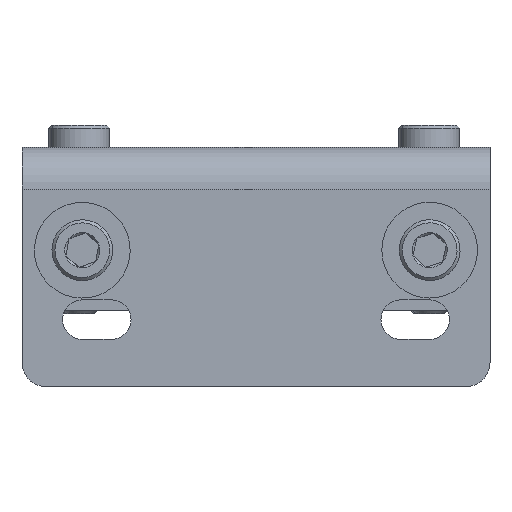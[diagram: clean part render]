
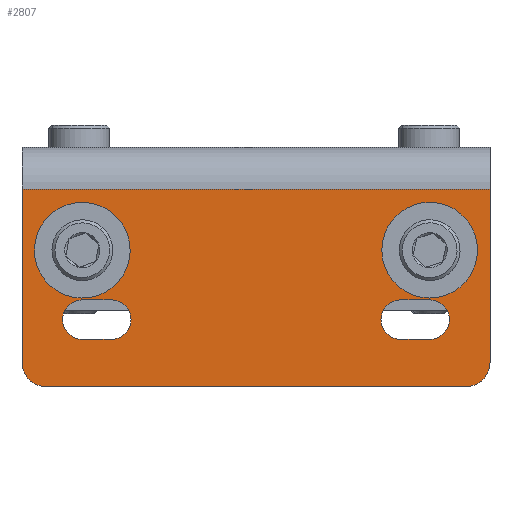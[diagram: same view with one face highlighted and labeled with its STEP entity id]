
A CAD part, front view. The second image highlights one B-rep face of the part: STEP entity #2807.
In plain terms, the highlighted planar face has unit normal (0, -1, 0).
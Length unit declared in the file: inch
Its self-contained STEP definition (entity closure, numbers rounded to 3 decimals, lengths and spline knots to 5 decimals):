
#1863=CARTESIAN_POINT('',(1.35827,-0.1345,1.0466));
#1864=DIRECTION('',(0.,-1.,0.));
#1865=DIRECTION('',(1.,0.,0.));
#1866=AXIS2_PLACEMENT_3D('',#1863,#1864,#1865);
#1868=DIRECTION('',(0.,0.,-1.));
#1869=VECTOR('',#1868,1.12313);
#1870=CARTESIAN_POINT('',(-1.51575,-0.1345,1.0466));
#1871=LINE('',#1870,#1869);
#1872=CARTESIAN_POINT('',(-1.35827,-0.1345,1.0466));
#1873=DIRECTION('',(0.,-1.,0.));
#1874=DIRECTION('',(0.,0.,1.));
#1875=AXIS2_PLACEMENT_3D('',#1872,#1873,#1874);
#1877=CARTESIAN_POINT('',(1.125,-0.1345,0.76887));
#1878=DIRECTION('',(0.,1.,0.));
#1879=DIRECTION('',(0.,0.,1.));
#1880=AXIS2_PLACEMENT_3D('',#1877,#1878,#1879);
#1882=DIRECTION('',(1.,0.,0.));
#1883=VECTOR('',#1882,0.1875);
#1884=CARTESIAN_POINT('',(0.9375,-0.1345,0.89682));
#1885=LINE('',#1884,#1883);
#1886=CARTESIAN_POINT('',(0.9375,-0.1345,0.76887));
#1887=DIRECTION('',(0.,1.,0.));
#1888=DIRECTION('',(0.,0.,-1.));
#1889=AXIS2_PLACEMENT_3D('',#1886,#1887,#1888);
#1891=DIRECTION('',(-1.,0.,0.));
#1892=VECTOR('',#1891,0.1875);
#1893=CARTESIAN_POINT('',(1.125,-0.1345,0.64091));
#1894=LINE('',#1893,#1892);
#1895=CARTESIAN_POINT('',(-1.125,-0.1345,0.45391));
#1896=DIRECTION('',(0.,1.,0.));
#1897=DIRECTION('',(0.,0.,1.));
#1898=AXIS2_PLACEMENT_3D('',#1895,#1896,#1897);
#1900=CARTESIAN_POINT('',(-1.125,-0.1345,0.45391));
#1901=DIRECTION('',(0.,1.,0.));
#1902=DIRECTION('',(-1.,0.,0.));
#1903=AXIS2_PLACEMENT_3D('',#1900,#1901,#1902);
#1905=DIRECTION('',(0.,0.,1.));
#1906=VECTOR('',#1905,0.135);
#1907=CARTESIAN_POINT('',(-1.25295,-0.1345,0.31891));
#1908=LINE('',#1907,#1906);
#1909=CARTESIAN_POINT('',(-1.125,-0.1345,0.31891));
#1910=DIRECTION('',(0.,1.,0.));
#1911=DIRECTION('',(1.,0.,0.));
#1912=AXIS2_PLACEMENT_3D('',#1909,#1910,#1911);
#1914=DIRECTION('',(0.,0.,-1.));
#1915=VECTOR('',#1914,0.135);
#1916=CARTESIAN_POINT('',(-0.99705,-0.1345,0.45391));
#1917=LINE('',#1916,#1915);
#1918=CARTESIAN_POINT('',(1.125,-0.1345,0.45391));
#1919=DIRECTION('',(0.,1.,0.));
#1920=DIRECTION('',(0.,0.,1.));
#1921=AXIS2_PLACEMENT_3D('',#1918,#1919,#1920);
#1923=CARTESIAN_POINT('',(1.125,-0.1345,0.45391));
#1924=DIRECTION('',(0.,1.,0.));
#1925=DIRECTION('',(-1.,0.,0.));
#1926=AXIS2_PLACEMENT_3D('',#1923,#1924,#1925);
#1928=DIRECTION('',(0.,0.,1.));
#1929=VECTOR('',#1928,0.135);
#1930=CARTESIAN_POINT('',(0.99705,-0.1345,0.31891));
#1931=LINE('',#1930,#1929);
#1932=CARTESIAN_POINT('',(1.125,-0.1345,0.31891));
#1933=DIRECTION('',(0.,1.,0.));
#1934=DIRECTION('',(1.,0.,0.));
#1935=AXIS2_PLACEMENT_3D('',#1932,#1933,#1934);
#1937=DIRECTION('',(0.,0.,-1.));
#1938=VECTOR('',#1937,0.135);
#1939=CARTESIAN_POINT('',(1.25295,-0.1345,0.45391));
#1940=LINE('',#1939,#1938);
#1941=CARTESIAN_POINT('',(-1.125,-0.1345,0.76887));
#1942=DIRECTION('',(0.,1.,0.));
#1943=DIRECTION('',(0.,0.,-1.));
#1944=AXIS2_PLACEMENT_3D('',#1941,#1942,#1943);
#1946=DIRECTION('',(-1.,0.,0.));
#1947=VECTOR('',#1946,0.1875);
#1948=CARTESIAN_POINT('',(-0.9375,-0.1345,0.64091));
#1949=LINE('',#1948,#1947);
#1950=CARTESIAN_POINT('',(-0.9375,-0.1345,0.76887));
#1951=DIRECTION('',(0.,1.,0.));
#1952=DIRECTION('',(0.,0.,1.));
#1953=AXIS2_PLACEMENT_3D('',#1950,#1951,#1952);
#1955=DIRECTION('',(1.,0.,0.));
#1956=VECTOR('',#1955,0.1875);
#1957=CARTESIAN_POINT('',(-1.125,-0.1345,0.89682));
#1958=LINE('',#1957,#1956);
#1959=DIRECTION('',(1.,0.,0.));
#1960=VECTOR('',#1959,2.71654);
#1961=CARTESIAN_POINT('',(-1.35827,-0.1345,1.20408));
#1962=LINE('',#1961,#1960);
#2073=DIRECTION('',(0.,0.,-1.));
#2074=VECTOR('',#2073,1.12313);
#2075=CARTESIAN_POINT('',(1.51575,-0.1345,1.0466));
#2076=LINE('',#2075,#2074);
#2095=DIRECTION('',(-1.,0.,0.));
#2096=VECTOR('',#2095,3.0315);
#2097=CARTESIAN_POINT('',(1.51575,-0.1345,-0.07652));
#2098=LINE('',#2097,#2096);
#2279=CARTESIAN_POINT('',(-1.25295,-0.1345,0.31891));
#2280=CARTESIAN_POINT('',(-1.25295,-0.1345,0.45391));
#2281=VERTEX_POINT('',#2279);
#2282=VERTEX_POINT('',#2280);
#2289=CARTESIAN_POINT('',(-1.125,-0.1345,0.64091));
#2290=CARTESIAN_POINT('',(-1.125,-0.1345,0.89682));
#2291=VERTEX_POINT('',#2289);
#2292=VERTEX_POINT('',#2290);
#2293=CARTESIAN_POINT('',(1.35827,-0.1345,1.20408));
#2294=VERTEX_POINT('',#2293);
#2301=CARTESIAN_POINT('',(-1.35827,-0.1345,1.20408));
#2303=VERTEX_POINT('',#2301);
#2309=CARTESIAN_POINT('',(1.25295,-0.1345,0.31891));
#2310=VERTEX_POINT('',#2309);
#2317=CARTESIAN_POINT('',(-1.125,-0.1345,0.58186));
#2318=VERTEX_POINT('',#2317);
#2324=CARTESIAN_POINT('',(-0.99705,-0.1345,0.45391));
#2326=VERTEX_POINT('',#2324);
#2339=CARTESIAN_POINT('',(1.51575,-0.1345,1.0466));
#2340=VERTEX_POINT('',#2339);
#2343=CARTESIAN_POINT('',(-0.9375,-0.1345,0.89682));
#2344=CARTESIAN_POINT('',(-0.9375,-0.1345,0.64091));
#2345=VERTEX_POINT('',#2343);
#2346=VERTEX_POINT('',#2344);
#2351=CARTESIAN_POINT('',(1.125,-0.1345,0.89682));
#2352=CARTESIAN_POINT('',(1.125,-0.1345,0.64091));
#2353=VERTEX_POINT('',#2351);
#2354=VERTEX_POINT('',#2352);
#2381=CARTESIAN_POINT('',(0.99705,-0.1345,0.31891));
#2382=CARTESIAN_POINT('',(0.99705,-0.1345,0.45391));
#2383=VERTEX_POINT('',#2381);
#2384=VERTEX_POINT('',#2382);
#2387=CARTESIAN_POINT('',(1.51575,-0.1345,-0.07652));
#2388=VERTEX_POINT('',#2387);
#2389=CARTESIAN_POINT('',(0.9375,-0.1345,0.89682));
#2390=VERTEX_POINT('',#2389);
#2391=CARTESIAN_POINT('',(-0.99705,-0.1345,0.31891));
#2392=VERTEX_POINT('',#2391);
#2393=CARTESIAN_POINT('',(1.25295,-0.1345,0.45391));
#2394=VERTEX_POINT('',#2393);
#2399=CARTESIAN_POINT('',(1.125,-0.1345,0.58186));
#2400=VERTEX_POINT('',#2399);
#2415=CARTESIAN_POINT('',(-1.51575,-0.1345,1.0466));
#2416=CARTESIAN_POINT('',(-1.51575,-0.1345,-0.07652));
#2417=VERTEX_POINT('',#2415);
#2418=VERTEX_POINT('',#2416);
#2431=CARTESIAN_POINT('',(0.9375,-0.1345,0.64091));
#2432=VERTEX_POINT('',#2431);
#2745=CARTESIAN_POINT('',(1.51575,-0.1345,-0.3983));
#2746=DIRECTION('',(0.,-1.,0.));
#2747=DIRECTION('',(0.,0.,-1.));
#2748=AXIS2_PLACEMENT_3D('',#2745,#2746,#2747);
#2749=PLANE('',#2748);
#2751=ORIENTED_EDGE('',*,*,#2750,.T.);
#2753=ORIENTED_EDGE('',*,*,#2752,.F.);
#2755=ORIENTED_EDGE('',*,*,#2754,.T.);
#2757=ORIENTED_EDGE('',*,*,#2756,.T.);
#2758=ORIENTED_EDGE('',*,*,#2735,.F.);
#2760=ORIENTED_EDGE('',*,*,#2759,.F.);
#2761=EDGE_LOOP('',(#2751,#2753,#2755,#2757,#2758,#2760));
#2762=FACE_OUTER_BOUND('',#2761,.F.);
#2764=ORIENTED_EDGE('',*,*,#2763,.F.);
#2766=ORIENTED_EDGE('',*,*,#2765,.F.);
#2768=ORIENTED_EDGE('',*,*,#2767,.F.);
#2770=ORIENTED_EDGE('',*,*,#2769,.F.);
#2771=EDGE_LOOP('',(#2764,#2766,#2768,#2770));
#2772=FACE_BOUND('',#2771,.F.);
#2774=ORIENTED_EDGE('',*,*,#2773,.F.);
#2776=ORIENTED_EDGE('',*,*,#2775,.F.);
#2778=ORIENTED_EDGE('',*,*,#2777,.F.);
#2780=ORIENTED_EDGE('',*,*,#2779,.F.);
#2782=ORIENTED_EDGE('',*,*,#2781,.F.);
#2783=EDGE_LOOP('',(#2774,#2776,#2778,#2780,#2782));
#2784=FACE_BOUND('',#2783,.F.);
#2786=ORIENTED_EDGE('',*,*,#2785,.F.);
#2788=ORIENTED_EDGE('',*,*,#2787,.F.);
#2790=ORIENTED_EDGE('',*,*,#2789,.F.);
#2792=ORIENTED_EDGE('',*,*,#2791,.F.);
#2794=ORIENTED_EDGE('',*,*,#2793,.F.);
#2795=EDGE_LOOP('',(#2786,#2788,#2790,#2792,#2794));
#2796=FACE_BOUND('',#2795,.F.);
#2798=ORIENTED_EDGE('',*,*,#2797,.F.);
#2800=ORIENTED_EDGE('',*,*,#2799,.F.);
#2802=ORIENTED_EDGE('',*,*,#2801,.F.);
#2804=ORIENTED_EDGE('',*,*,#2803,.F.);
#2805=EDGE_LOOP('',(#2798,#2800,#2802,#2804));
#2806=FACE_BOUND('',#2805,.F.);
#1867=CIRCLE('',#1866,0.15748);
#1876=CIRCLE('',#1875,0.15748);
#1881=CIRCLE('',#1880,0.12795);
#1890=CIRCLE('',#1889,0.12795);
#1899=CIRCLE('',#1898,0.12795);
#1904=CIRCLE('',#1903,0.12795);
#1913=CIRCLE('',#1912,0.12795);
#1922=CIRCLE('',#1921,0.12795);
#1927=CIRCLE('',#1926,0.12795);
#1936=CIRCLE('',#1935,0.12795);
#1945=CIRCLE('',#1944,0.12795);
#1954=CIRCLE('',#1953,0.12795);
#2735=EDGE_CURVE('',#2417,#2418,#1871,.T.);
#2750=EDGE_CURVE('',#2303,#2294,#1962,.T.);
#2752=EDGE_CURVE('',#2340,#2294,#1867,.T.);
#2754=EDGE_CURVE('',#2340,#2388,#2076,.T.);
#2756=EDGE_CURVE('',#2388,#2418,#2098,.T.);
#2759=EDGE_CURVE('',#2303,#2417,#1876,.T.);
#2763=EDGE_CURVE('',#2353,#2354,#1881,.T.);
#2765=EDGE_CURVE('',#2390,#2353,#1885,.T.);
#2767=EDGE_CURVE('',#2432,#2390,#1890,.T.);
#2769=EDGE_CURVE('',#2354,#2432,#1894,.T.);
#2773=EDGE_CURVE('',#2318,#2326,#1899,.T.);
#2775=EDGE_CURVE('',#2282,#2318,#1904,.T.);
#2777=EDGE_CURVE('',#2281,#2282,#1908,.T.);
#2779=EDGE_CURVE('',#2392,#2281,#1913,.T.);
#2781=EDGE_CURVE('',#2326,#2392,#1917,.T.);
#2785=EDGE_CURVE('',#2400,#2394,#1922,.T.);
#2787=EDGE_CURVE('',#2384,#2400,#1927,.T.);
#2789=EDGE_CURVE('',#2383,#2384,#1931,.T.);
#2791=EDGE_CURVE('',#2310,#2383,#1936,.T.);
#2793=EDGE_CURVE('',#2394,#2310,#1940,.T.);
#2797=EDGE_CURVE('',#2291,#2292,#1945,.T.);
#2799=EDGE_CURVE('',#2346,#2291,#1949,.T.);
#2801=EDGE_CURVE('',#2345,#2346,#1954,.T.);
#2803=EDGE_CURVE('',#2292,#2345,#1958,.T.);
#2807=ADVANCED_FACE('',(#2762,#2772,#2784,#2796,#2806),#2749,.T.);
